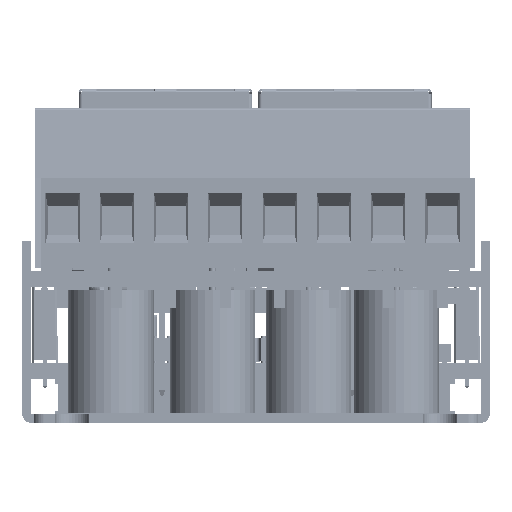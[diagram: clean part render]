
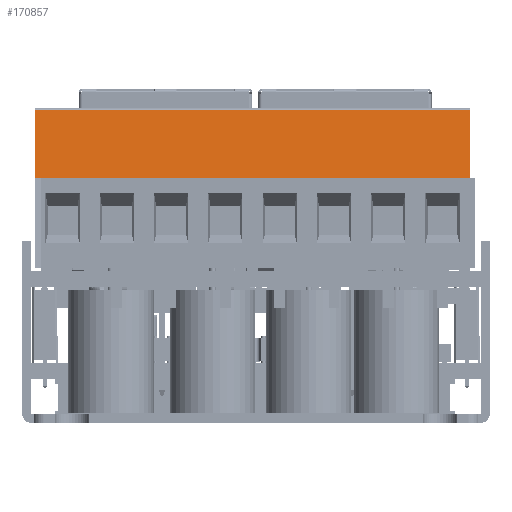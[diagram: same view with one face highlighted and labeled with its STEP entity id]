
A CAD part, left-side view. The second image highlights one B-rep face of the part: STEP entity #170857.
In plain terms, the highlighted planar face has unit normal (-0.991, 0, 0.137).
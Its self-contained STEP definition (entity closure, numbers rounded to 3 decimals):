
#8596 = CARTESIAN_POINT ( 'NONE',  ( -30.603, 9.536, 107.861 ) ) ;
#9620 = VECTOR ( 'NONE', #546442, 1000. ) ;
#17632 = EDGE_CURVE ( 'NONE', #333778, #680118, #442781, .T. ) ;
#19766 = EDGE_CURVE ( 'NONE', #484913, #680118, #230406, .T. ) ;
#40315 = CARTESIAN_POINT ( 'NONE',  ( -31.479, 49.686, 101.534 ) ) ;
#51827 = CARTESIAN_POINT ( 'NONE',  ( -30.579, 50.176, 108.034 ) ) ;
#99097 = LINE ( 'NONE', #751824, #135661 ) ;
#135661 = VECTOR ( 'NONE', #362111, 1000. ) ;
#170857 = ADVANCED_FACE ( 'NONE', ( #512666 ), #643797, .T. ) ;
#181824 = VERTEX_POINT ( 'NONE', #979044 ) ;
#209720 = DIRECTION ( 'NONE',  ( -0.137, 0., -0.991 ) ) ;
#230406 = LINE ( 'NONE', #458396, #386625 ) ;
#238528 = EDGE_CURVE ( 'NONE', #181824, #484913, #99097, .T. ) ;
#324440 = EDGE_LOOP ( 'NONE', ( #539130, #989152, #635724, #980022, #579655 ) ) ;
#333778 = VERTEX_POINT ( 'NONE', #856554 ) ;
#360790 = VECTOR ( 'NONE', #787323, 1000. ) ;
#362111 = DIRECTION ( 'NONE',  ( 0., -1., 0. ) ) ;
#362627 = LINE ( 'NONE', #938330, #360790 ) ;
#381811 = EDGE_CURVE ( 'NONE', #910392, #181824, #362627, .T. ) ;
#386625 = VECTOR ( 'NONE', #776998, 1000. ) ;
#389050 = DIRECTION ( 'NONE',  ( 0., 1., 0. ) ) ;
#399093 = CARTESIAN_POINT ( 'NONE',  ( -30.603, 50.176, 107.861 ) ) ;
#442781 = LINE ( 'NONE', #8596, #9620 ) ;
#458396 = CARTESIAN_POINT ( 'NONE',  ( -31.479, 50.176, 101.534 ) ) ;
#484913 = VERTEX_POINT ( 'NONE', #40315 ) ;
#493797 = EDGE_CURVE ( 'NONE', #333778, #910392, #637202, .T. ) ;
#512666 = FACE_OUTER_BOUND ( 'NONE', #324440, .T. ) ;
#539130 = ORIENTED_EDGE ( 'NONE', *, *, #493797, .T. ) ;
#546442 = DIRECTION ( 'NONE',  ( -0.137, 0., -0.991 ) ) ;
#579655 = ORIENTED_EDGE ( 'NONE', *, *, #17632, .F. ) ;
#635724 = ORIENTED_EDGE ( 'NONE', *, *, #238528, .T. ) ;
#637202 = LINE ( 'NONE', #399093, #721829 ) ;
#643797 = PLANE ( 'NONE',  #859406 ) ;
#680118 = VERTEX_POINT ( 'NONE', #698943 ) ;
#698943 = CARTESIAN_POINT ( 'NONE',  ( -31.479, 9.536, 101.534 ) ) ;
#721829 = VECTOR ( 'NONE', #389050, 1000. ) ;
#751824 = CARTESIAN_POINT ( 'NONE',  ( -31.479, 50.176, 101.534 ) ) ;
#776998 = DIRECTION ( 'NONE',  ( 0., -1., 0. ) ) ;
#787323 = DIRECTION ( 'NONE',  ( -0.137, 0., -0.991 ) ) ;
#817960 = DIRECTION ( 'NONE',  ( -0.991, 0., 0.137 ) ) ;
#856554 = CARTESIAN_POINT ( 'NONE',  ( -30.603, 9.536, 107.861 ) ) ;
#859406 = AXIS2_PLACEMENT_3D ( 'NONE', #51827, #817960, #209720 ) ;
#910392 = VERTEX_POINT ( 'NONE', #984723 ) ;
#938330 = CARTESIAN_POINT ( 'NONE',  ( -30.603, 50.176, 107.861 ) ) ;
#979044 = CARTESIAN_POINT ( 'NONE',  ( -31.479, 50.176, 101.534 ) ) ;
#980022 = ORIENTED_EDGE ( 'NONE', *, *, #19766, .T. ) ;
#984723 = CARTESIAN_POINT ( 'NONE',  ( -30.603, 50.176, 107.861 ) ) ;
#989152 = ORIENTED_EDGE ( 'NONE', *, *, #381811, .T. ) ;
